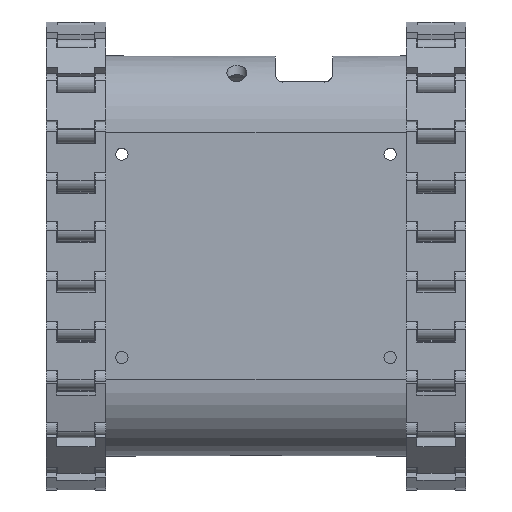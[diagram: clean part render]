
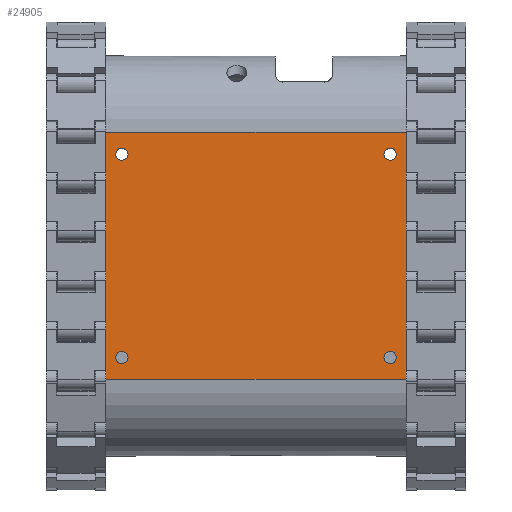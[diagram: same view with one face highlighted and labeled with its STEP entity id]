
A CAD part, top view. The second image highlights one B-rep face of the part: STEP entity #24905.
In plain terms, the highlighted planar face has unit normal (0, 0, 1).
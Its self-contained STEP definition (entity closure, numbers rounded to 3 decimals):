
#877=FACE_BOUND('',#8023,.T.);
#878=FACE_BOUND('',#8024,.T.);
#879=FACE_BOUND('',#8025,.T.);
#880=FACE_BOUND('',#8026,.T.);
#1650=LINE('',#37051,#4146);
#1651=LINE('',#37054,#4147);
#1652=LINE('',#37056,#4148);
#1653=LINE('',#37057,#4149);
#4146=VECTOR('',#29314,10.);
#4147=VECTOR('',#29317,10.);
#4148=VECTOR('',#29318,10.);
#4149=VECTOR('',#29319,10.);
#6602=FACE_OUTER_BOUND('',#8022,.T.);
#8022=EDGE_LOOP('',(#16935,#16936,#16937,#16938));
#8023=EDGE_LOOP('',(#16939));
#8024=EDGE_LOOP('',(#16940));
#8025=EDGE_LOOP('',(#16941));
#8026=EDGE_LOOP('',(#16942));
#9624=CIRCLE('',#26673,1.6);
#9627=CIRCLE('',#26678,1.6);
#9631=CIRCLE('',#26684,1.6);
#9634=CIRCLE('',#26689,1.6);
#10675=VERTEX_POINT('',#36981);
#10678=VERTEX_POINT('',#36991);
#10682=VERTEX_POINT('',#37003);
#10685=VERTEX_POINT('',#37013);
#10696=VERTEX_POINT('',#37047);
#10697=VERTEX_POINT('',#37049);
#10698=VERTEX_POINT('',#37053);
#10699=VERTEX_POINT('',#37055);
#13132=EDGE_CURVE('',#10675,#10675,#9624,.T.);
#13137=EDGE_CURVE('',#10678,#10678,#9627,.T.);
#13143=EDGE_CURVE('',#10682,#10682,#9631,.T.);
#13148=EDGE_CURVE('',#10685,#10685,#9634,.T.);
#13166=EDGE_CURVE('',#10696,#10697,#1650,.T.);
#13167=EDGE_CURVE('',#10698,#10696,#1651,.T.);
#13168=EDGE_CURVE('',#10699,#10697,#1652,.T.);
#13169=EDGE_CURVE('',#10698,#10699,#1653,.T.);
#16935=ORIENTED_EDGE('',*,*,#13167,.T.);
#16936=ORIENTED_EDGE('',*,*,#13166,.T.);
#16937=ORIENTED_EDGE('',*,*,#13168,.F.);
#16938=ORIENTED_EDGE('',*,*,#13169,.F.);
#16939=ORIENTED_EDGE('',*,*,#13132,.T.);
#16940=ORIENTED_EDGE('',*,*,#13137,.T.);
#16941=ORIENTED_EDGE('',*,*,#13143,.T.);
#16942=ORIENTED_EDGE('',*,*,#13148,.T.);
#24037=PLANE('',#26700);
#24905=ADVANCED_FACE('',(#6602,#877,#878,#879,#880),#24037,.T.);
#26673=AXIS2_PLACEMENT_3D('',#36983,#29241,#29242);
#26678=AXIS2_PLACEMENT_3D('',#36993,#29253,#29254);
#26684=AXIS2_PLACEMENT_3D('',#37005,#29267,#29268);
#26689=AXIS2_PLACEMENT_3D('',#37015,#29279,#29280);
#26700=AXIS2_PLACEMENT_3D('',#37052,#29315,#29316);
#29241=DIRECTION('center_axis',(0.,0.,-1.));
#29242=DIRECTION('ref_axis',(1.,0.,0.));
#29253=DIRECTION('center_axis',(0.,0.,-1.));
#29254=DIRECTION('ref_axis',(1.,0.,0.));
#29267=DIRECTION('center_axis',(0.,0.,-1.));
#29268=DIRECTION('ref_axis',(1.,0.,0.));
#29279=DIRECTION('center_axis',(0.,0.,-1.));
#29280=DIRECTION('ref_axis',(1.,0.,0.));
#29314=DIRECTION('',(1.,0.,0.));
#29315=DIRECTION('center_axis',(0.,0.,1.));
#29316=DIRECTION('ref_axis',(0.,-1.,0.));
#29317=DIRECTION('',(0.,-1.,0.));
#29318=DIRECTION('',(0.,-1.,0.));
#29319=DIRECTION('',(1.,0.,0.));
#36981=CARTESIAN_POINT('',(73.4,25.66,40.));
#36983=CARTESIAN_POINT('Origin',(75.,25.66,40.));
#36991=CARTESIAN_POINT('',(73.4,78.74,40.));
#36993=CARTESIAN_POINT('Origin',(75.,78.74,40.));
#37003=CARTESIAN_POINT('',(3.4,25.66,40.));
#37005=CARTESIAN_POINT('Origin',(5.,25.66,40.));
#37013=CARTESIAN_POINT('',(3.4,78.74,40.));
#37015=CARTESIAN_POINT('Origin',(5.,78.74,40.));
#37047=CARTESIAN_POINT('',(0.,20.,40.));
#37049=CARTESIAN_POINT('',(80.,20.,40.));
#37051=CARTESIAN_POINT('',(0.,20.,40.));
#37052=CARTESIAN_POINT('Origin',(0.,84.4,40.));
#37053=CARTESIAN_POINT('',(0.,84.4,40.));
#37054=CARTESIAN_POINT('',(0.,104.4,40.));
#37055=CARTESIAN_POINT('',(80.,84.4,40.));
#37056=CARTESIAN_POINT('',(80.,104.4,40.));
#37057=CARTESIAN_POINT('',(0.,84.4,40.));
